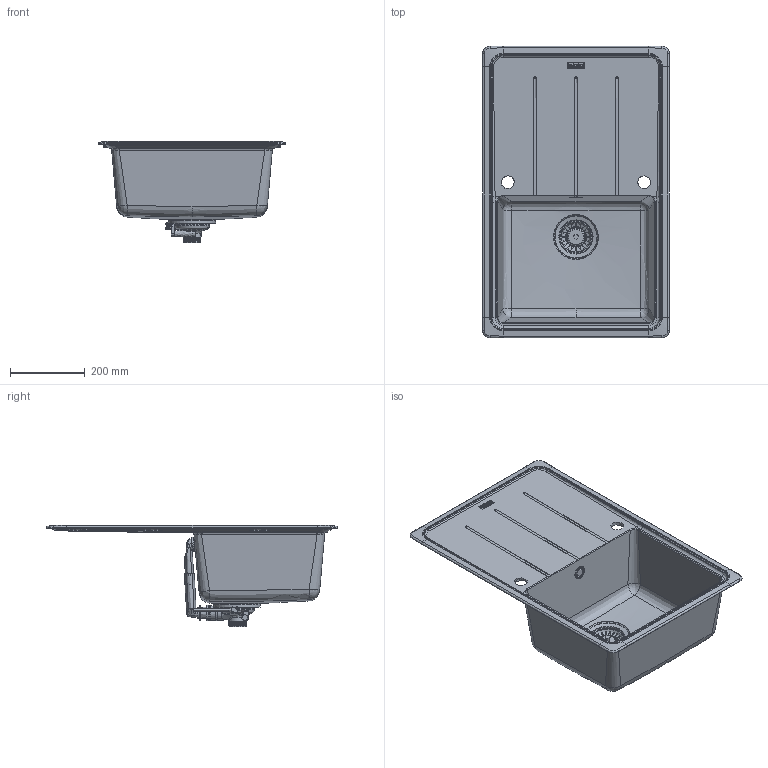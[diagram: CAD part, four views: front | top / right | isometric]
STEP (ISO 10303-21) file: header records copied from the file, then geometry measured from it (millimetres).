
FILE_DESCRIPTION(/* description */ (''),/* implementation_level */ '2;1');
FILE_NAME(/* name */ '3D001_Sinks_Basis_BFG-611-78',/* time_stamp */ '2024-06-26T15:20:22+02:00',/* author */ (''),/* organization */ (''),/* preprocessor_version */ 'ST-DEVELOPER v19.2',/* originating_system */ 'Rhino 8.7',/* authorisation */ '');
FILE_SCHEMA (('CONFIG_CONTROL_DESIGN'));
Products named in the file (3): Document; 20127513_tpm_000; Blocco 02
Bounding box: 499.86 x 779.86 x 270.5 mm (x, y, z)
Volume: 4851984.6 mm3; surface area: 1354072.5 mm2
Topology: 8 solids, 12 shells, 2609 faces, 6898 edges, 4371 vertices
Faces by surface type: plane 1387, bspline 744, cylinder 478
Full cylindrical faces by diameter (mm): 5 x3, 6 x2, 7.5 x3, 8 x1, 14 x2, 23.8 x1, 24 x1, 27.5 x1, 30 x3, 31 x1, 35 x3, 36 x2, 39 x1, 39.5 x1, 42 x3, 45 x1, 48 x1, 83.403 x1, 84 x1, 126 x1
Entity records: 120448 total; most frequent: CARTESIAN_POINT 65688, ORIENTED_EDGE 13691, EDGE_CURVE 6860, DIRECTION 6589, VERTEX_POINT 4372, AXIS2_PLACEMENT_3D 4227, B_SPLINE_CURVE_WITH_KNOTS 3908, EDGE_LOOP 2747
